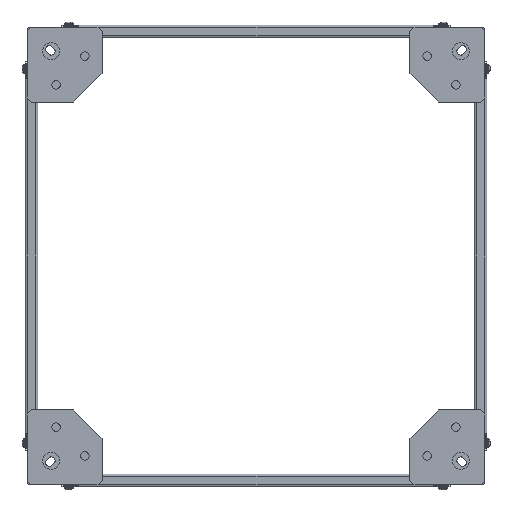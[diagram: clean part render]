
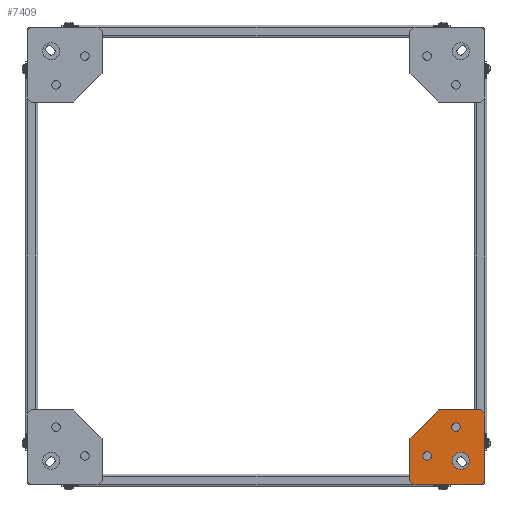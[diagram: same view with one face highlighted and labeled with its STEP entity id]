
A CAD part, front view. The second image highlights one B-rep face of the part: STEP entity #7409.
In plain terms, the highlighted planar face has unit normal (0, -1, 0).
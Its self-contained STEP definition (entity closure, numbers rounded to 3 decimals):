
#44 = CARTESIAN_POINT ( 'NONE',  ( 62., 0., 62. ) ) ;
#118 = LINE ( 'NONE', #14645, #24960 ) ;
#306 = VECTOR ( 'NONE', #3753, 1000. ) ;
#552 = FACE_BOUND ( 'NONE', #26254, .T. ) ;
#567 = VERTEX_POINT ( 'NONE', #8548 ) ;
#928 = ORIENTED_EDGE ( 'NONE', *, *, #14878, .T. ) ;
#1032 = CIRCLE ( 'NONE', #26466, 7.5 ) ;
#1165 = CARTESIAN_POINT ( 'NONE',  ( 23., 0., -23. ) ) ;
#1228 = VERTEX_POINT ( 'NONE', #16449 ) ;
#1380 = CARTESIAN_POINT ( 'NONE',  ( -62., 0., -62. ) ) ;
#1969 = FACE_BOUND ( 'NONE', #7245, .T. ) ;
#2273 = EDGE_CURVE ( 'NONE', #25402, #19736, #11257, .T. ) ;
#2404 = EDGE_CURVE ( 'NONE', #9604, #14727, #22694, .T. ) ;
#2478 = CARTESIAN_POINT ( 'NONE',  ( 38., 0., -23. ) ) ;
#2852 = CIRCLE ( 'NONE', #8503, 7.5 ) ;
#2856 = DIRECTION ( 'NONE',  ( 0., -1., 0. ) ) ;
#3021 = ORIENTED_EDGE ( 'NONE', *, *, #21575, .T. ) ;
#3133 = CARTESIAN_POINT ( 'NONE',  ( -28., 0., -14.5 ) ) ;
#3245 = DIRECTION ( 'NONE',  ( -1., 0., 0. ) ) ;
#3398 = EDGE_CURVE ( 'NONE', #4177, #15716, #7427, .T. ) ;
#3596 = DIRECTION ( 'NONE',  ( 0., -1., 0. ) ) ;
#3753 = DIRECTION ( 'NONE',  ( 0.707, 0., 0.707 ) ) ;
#4177 = VERTEX_POINT ( 'NONE', #19668 ) ;
#4572 = VERTEX_POINT ( 'NONE', #22128 ) ;
#4979 = VECTOR ( 'NONE', #23019, 1000. ) ;
#5115 = LINE ( 'NONE', #25868, #14450 ) ;
#5118 = DIRECTION ( 'NONE',  ( 0., -1., 0. ) ) ;
#5376 = DIRECTION ( 'NONE',  ( -0.707, 0., -0.707 ) ) ;
#5453 = DIRECTION ( 'NONE',  ( 0.707, 0., -0.707 ) ) ;
#5801 = ORIENTED_EDGE ( 'NONE', *, *, #7701, .F. ) ;
#6044 = ORIENTED_EDGE ( 'NONE', *, *, #12782, .F. ) ;
#6066 = LINE ( 'NONE', #18509, #306 ) ;
#6363 = CARTESIAN_POINT ( 'NONE',  ( -65.5, 0., 65.5 ) ) ;
#6686 = EDGE_CURVE ( 'NONE', #25323, #567, #1032, .T. ) ;
#7153 = DIRECTION ( 'NONE',  ( 1., 0., 0. ) ) ;
#7245 = EDGE_LOOP ( 'NONE', ( #6044, #24601 ) ) ;
#7409 = ADVANCED_FACE ( 'NONE', ( #1969, #552, #18977, #8855 ), #16175, .T. ) ;
#7427 = LINE ( 'NONE', #21357, #24208 ) ;
#7687 = CARTESIAN_POINT ( 'NONE',  ( 23., 0., -23. ) ) ;
#7701 = EDGE_CURVE ( 'NONE', #12251, #10523, #16677, .T. ) ;
#7703 = CARTESIAN_POINT ( 'NONE',  ( -65.5, 0., -58.5 ) ) ;
#8118 = ORIENTED_EDGE ( 'NONE', *, *, #3398, .T. ) ;
#8503 = AXIS2_PLACEMENT_3D ( 'NONE', #19313, #11339, #7153 ) ;
#8548 = CARTESIAN_POINT ( 'NONE',  ( 22., 0., 35.5 ) ) ;
#8606 = LINE ( 'NONE', #44, #4979 ) ;
#8684 = DIRECTION ( 'NONE',  ( 0., -1., 0. ) ) ;
#8855 = FACE_OUTER_BOUND ( 'NONE', #25306, .T. ) ;
#9005 = EDGE_CURVE ( 'NONE', #10523, #12251, #2852, .T. ) ;
#9026 = DIRECTION ( 'NONE',  ( -1., 0., 0. ) ) ;
#9426 = ORIENTED_EDGE ( 'NONE', *, *, #20249, .T. ) ;
#9441 = DIRECTION ( 'NONE',  ( 1., 0., 0. ) ) ;
#9603 = CARTESIAN_POINT ( 'NONE',  ( 60., 0., -65.5 ) ) ;
#9604 = VERTEX_POINT ( 'NONE', #25411 ) ;
#9870 = EDGE_CURVE ( 'NONE', #4572, #11523, #118, .T. ) ;
#10385 = CARTESIAN_POINT ( 'NONE',  ( 14.5, 0., 35.5 ) ) ;
#10523 = VERTEX_POINT ( 'NONE', #24896 ) ;
#10554 = DIRECTION ( 'NONE',  ( 0., 0., -1. ) ) ;
#10567 = DIRECTION ( 'NONE',  ( 1., 0., 0. ) ) ;
#11257 = LINE ( 'NONE', #13439, #25096 ) ;
#11283 = AXIS2_PLACEMENT_3D ( 'NONE', #7687, #5118, #24019 ) ;
#11339 = DIRECTION ( 'NONE',  ( 0., -1., 0. ) ) ;
#11523 = VERTEX_POINT ( 'NONE', #25514 ) ;
#11535 = CARTESIAN_POINT ( 'NONE',  ( 14.5, 0., 35.5 ) ) ;
#12251 = VERTEX_POINT ( 'NONE', #3133 ) ;
#12782 = EDGE_CURVE ( 'NONE', #20613, #1228, #26049, .T. ) ;
#12917 = ORIENTED_EDGE ( 'NONE', *, *, #6686, .F. ) ;
#12975 = EDGE_CURVE ( 'NONE', #567, #25323, #15324, .T. ) ;
#13439 = CARTESIAN_POINT ( 'NONE',  ( -65.5, 0., 65.5 ) ) ;
#14450 = VECTOR ( 'NONE', #5376, 1000. ) ;
#14642 = CARTESIAN_POINT ( 'NONE',  ( -35.5, 0., -14.5 ) ) ;
#14645 = CARTESIAN_POINT ( 'NONE',  ( 65.5, 0., 65.5 ) ) ;
#14727 = VERTEX_POINT ( 'NONE', #7703 ) ;
#14878 = EDGE_CURVE ( 'NONE', #15716, #4572, #6066, .T. ) ;
#15324 = CIRCLE ( 'NONE', #17048, 7.5 ) ;
#15357 = AXIS2_PLACEMENT_3D ( 'NONE', #17724, #2856, #25920 ) ;
#15669 = DIRECTION ( 'NONE',  ( 1., 0., 0. ) ) ;
#15716 = VERTEX_POINT ( 'NONE', #9603 ) ;
#15861 = LINE ( 'NONE', #1380, #19678 ) ;
#16079 = ORIENTED_EDGE ( 'NONE', *, *, #2273, .T. ) ;
#16175 = PLANE ( 'NONE',  #15357 ) ;
#16449 = CARTESIAN_POINT ( 'NONE',  ( 8., 0., -23. ) ) ;
#16677 = CIRCLE ( 'NONE', #18821, 7.5 ) ;
#17048 = AXIS2_PLACEMENT_3D ( 'NONE', #10385, #18618, #9026 ) ;
#17189 = CARTESIAN_POINT ( 'NONE',  ( 58.5, 0., 65.5 ) ) ;
#17724 = CARTESIAN_POINT ( 'NONE',  ( -65.5, 0., -65.5 ) ) ;
#17823 = ORIENTED_EDGE ( 'NONE', *, *, #9870, .T. ) ;
#18187 = EDGE_CURVE ( 'NONE', #1228, #20613, #19886, .T. ) ;
#18509 = CARTESIAN_POINT ( 'NONE',  ( -2.75, 0., -128.25 ) ) ;
#18618 = DIRECTION ( 'NONE',  ( 0., -1., 0. ) ) ;
#18821 = AXIS2_PLACEMENT_3D ( 'NONE', #14642, #8684, #10567 ) ;
#18835 = CARTESIAN_POINT ( 'NONE',  ( 7., 0., 35.5 ) ) ;
#18977 = FACE_BOUND ( 'NONE', #26076, .T. ) ;
#19313 = CARTESIAN_POINT ( 'NONE',  ( -35.5, 0., -14.5 ) ) ;
#19668 = CARTESIAN_POINT ( 'NONE',  ( -58.5, 0., -65.5 ) ) ;
#19678 = VECTOR ( 'NONE', #5453, 1000. ) ;
#19736 = VERTEX_POINT ( 'NONE', #26513 ) ;
#19753 = DIRECTION ( 'NONE',  ( -1., 0., 0. ) ) ;
#19886 = CIRCLE ( 'NONE', #11283, 15. ) ;
#20249 = EDGE_CURVE ( 'NONE', #19736, #9604, #5115, .T. ) ;
#20447 = DIRECTION ( 'NONE',  ( 0., 0., 1. ) ) ;
#20613 = VERTEX_POINT ( 'NONE', #2478 ) ;
#20756 = EDGE_CURVE ( 'NONE', #14727, #4177, #15861, .T. ) ;
#21357 = CARTESIAN_POINT ( 'NONE',  ( -65.5, 0., -65.5 ) ) ;
#21575 = EDGE_CURVE ( 'NONE', #11523, #25402, #8606, .T. ) ;
#22128 = CARTESIAN_POINT ( 'NONE',  ( 65.5, 0., -60. ) ) ;
#22547 = VECTOR ( 'NONE', #10554, 1000. ) ;
#22694 = LINE ( 'NONE', #6363, #22547 ) ;
#23019 = DIRECTION ( 'NONE',  ( -0.707, 0., 0.707 ) ) ;
#23520 = ORIENTED_EDGE ( 'NONE', *, *, #2404, .T. ) ;
#24019 = DIRECTION ( 'NONE',  ( 1., 0., 0. ) ) ;
#24192 = DIRECTION ( 'NONE',  ( 0., -1., 0. ) ) ;
#24208 = VECTOR ( 'NONE', #15669, 1000. ) ;
#24280 = ORIENTED_EDGE ( 'NONE', *, *, #9005, .F. ) ;
#24601 = ORIENTED_EDGE ( 'NONE', *, *, #18187, .F. ) ;
#24790 = AXIS2_PLACEMENT_3D ( 'NONE', #1165, #3596, #9441 ) ;
#24841 = ORIENTED_EDGE ( 'NONE', *, *, #20756, .T. ) ;
#24896 = CARTESIAN_POINT ( 'NONE',  ( -43., 0., -14.5 ) ) ;
#24960 = VECTOR ( 'NONE', #20447, 1000. ) ;
#25053 = ORIENTED_EDGE ( 'NONE', *, *, #12975, .F. ) ;
#25096 = VECTOR ( 'NONE', #3245, 1000. ) ;
#25306 = EDGE_LOOP ( 'NONE', ( #23520, #24841, #8118, #928, #17823, #3021, #16079, #9426 ) ) ;
#25323 = VERTEX_POINT ( 'NONE', #18835 ) ;
#25402 = VERTEX_POINT ( 'NONE', #17189 ) ;
#25411 = CARTESIAN_POINT ( 'NONE',  ( -65.5, 0., 15.5 ) ) ;
#25514 = CARTESIAN_POINT ( 'NONE',  ( 65.5, 0., 58.5 ) ) ;
#25868 = CARTESIAN_POINT ( 'NONE',  ( -106., 0., -25. ) ) ;
#25920 = DIRECTION ( 'NONE',  ( 1., 0., 0. ) ) ;
#26049 = CIRCLE ( 'NONE', #24790, 15. ) ;
#26076 = EDGE_LOOP ( 'NONE', ( #5801, #24280 ) ) ;
#26254 = EDGE_LOOP ( 'NONE', ( #25053, #12917 ) ) ;
#26466 = AXIS2_PLACEMENT_3D ( 'NONE', #11535, #24192, #19753 ) ;
#26513 = CARTESIAN_POINT ( 'NONE',  ( -15.5, 0., 65.5 ) ) ;
